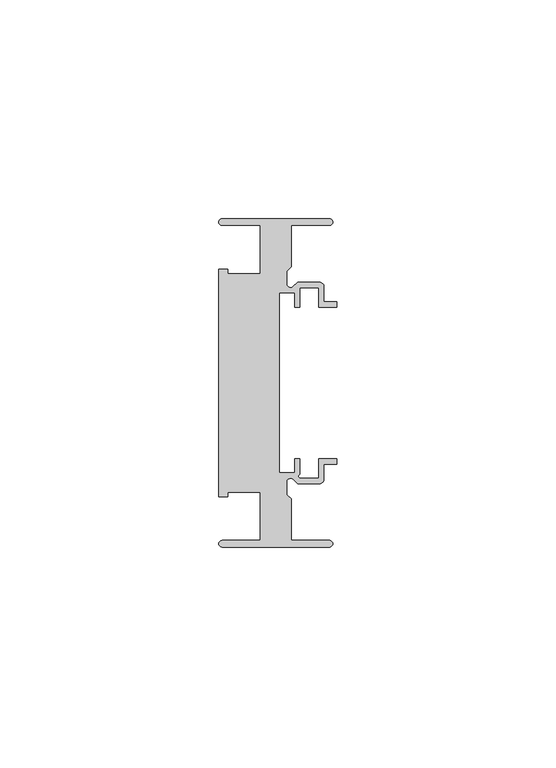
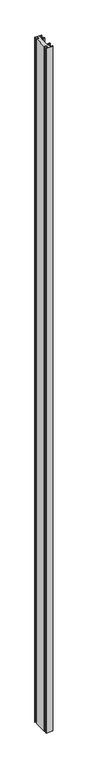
"""IFC4 building model written with IfcOpenShell, lengths in millimetres: member geometry, Прямоугольный импост : 7-AMG-2-Профиль 26Х75 Верх П."""

from ifc_helpers import new_model, si_unit, point, frame, frame_2d, origin, place, context, project, spatial, polyline, circle_curve, trimmed, segment, composite_curve, outline, extrude, source, transform, mapped, element, save


def member_5ca82919(model_context):
    return source(origin(), model_context, "Body", "SweptSolid", [
        extrude(outline(composite_curve([segment(trimmed(circle_curve(frame_2d((-1.7, 36.75)), 0.75), [point((-1.7, 37.5))], [point((-1.7, 36.0))], False, "CARTESIAN"), True, "CONTINUOUS"), segment(polyline([(-1.7, 36.0), (-10.5, 36.0), (-10.5, 26.5029437), (-11.5, 25.5029437), (-11.5, 22.6727922)]), True, "CONTINUOUS"), segment(trimmed(circle_curve(frame_2d((-10.6, 22.6727922)), 0.9), [point((-11.5, 22.6727922))], [point((-9.9636039, 22.0363961))], True, "CARTESIAN"), True, "CONTINUOUS"), segment(polyline([(-9.9636039, 22.0363961), (-9.0, 23.0), (-4.0, 23.0)]), True, "CONTINUOUS"), segment(trimmed(circle_curve(frame_2d((-4.0, 22.0)), 1.0), [point((-4.0, 23.0))], [point((-3.0, 22.0))], False, "CARTESIAN"), True, "CONTINUOUS"), segment(polyline([(-3.0, 22.0), (-3.0, 18.55), (0.0, 18.55), (0.0, 17.35), (-4.2, 17.35), (-4.2, 21.8), (-8.45, 21.8), (-8.45, 17.35), (-9.65, 17.35), (-9.65, 20.55), (-13.15, 20.55), (-13.15, -20.55), (-9.65, -20.55), (-9.65, -17.35), (-8.45, -17.35), (-8.45, -20.8470563)]), True, "CONTINUOUS"), segment(trimmed(circle_curve(frame_2d((-8.3343131, -21.3314262)), 0.4979937), [point((-8.45, -20.8470563))], [point((-8.5029437, -21.8))], True, "CARTESIAN"), True, "CONTINUOUS"), segment(polyline([(-8.5029437, -21.8), (-4.2, -21.8), (-4.2, -17.35), (0.0, -17.35), (0.0, -18.55), (-3.0, -18.55), (-3.0, -22.0)]), True, "CONTINUOUS"), segment(trimmed(circle_curve(frame_2d((-4.0, -22.0)), 1.0), [point((-3.0, -22.0))], [point((-4.0, -23.0))], False, "CARTESIAN"), True, "CONTINUOUS"), segment(polyline([(-4.0, -23.0), (-9.0, -23.0), (-9.9636039, -22.0363961)]), True, "CONTINUOUS"), segment(trimmed(circle_curve(frame_2d((-10.6, -22.6727922)), 0.9), [point((-9.9636039, -22.0363961))], [point((-11.5, -22.6727922))], True, "CARTESIAN"), True, "CONTINUOUS"), segment(polyline([(-11.5, -22.6727922), (-11.5, -25.5029437), (-10.5, -26.5029437), (-10.5, -36.0), (-1.7, -36.0)]), True, "CONTINUOUS"), segment(trimmed(circle_curve(frame_2d((-1.7, -36.75)), 0.75), [point((-1.7, -36.0))], [point((-1.7, -37.5))], False, "CARTESIAN"), True, "CONTINUOUS"), segment(polyline([(-1.7, -37.5), (-26.25, -37.5)]), True, "CONTINUOUS"), segment(trimmed(circle_curve(frame_2d((-26.25, -36.75)), 0.75), [point((-26.25, -37.5))], [point((-26.25, -36.0))], False, "CARTESIAN"), True, "CONTINUOUS"), segment(polyline([(-26.25, -36.0), (-17.5, -36.0), (-17.5, -25.0), (-24.9359877, -25.0), (-24.9359877, -26.0), (-27.0, -26.0), (-27.0, 26.0), (-24.9359877, 26.0), (-24.9359877, 25.0), (-17.5, 25.0), (-17.5, 36.0), (-26.25, 36.0)]), True, "CONTINUOUS"), segment(trimmed(circle_curve(frame_2d((-26.25, 36.75)), 0.75), [point((-26.25, 36.0))], [point((-26.25, 37.5))], False, "CARTESIAN"), True, "CONTINUOUS"), segment(polyline([(-26.25, 37.5), (-1.7, 37.5)]), True, "CONTINUOUS")], self_intersect=False)), frame((0.0, 0.0, -2800.0), z_axis=(0.0, 0.0, 1.0), x_axis=(1.0, 0.0, 0.0)), (0.0, 0.0, 1.0), 2800.0),
    ])


if __name__ == "__main__":
    model = new_model("IFC4")
    model_context = context("Model", 3, world=origin())
    ifc_project = project(units=[si_unit("LENGTHUNIT", "METRE", prefix="MILLI")], contexts=[model_context])
    site = spatial("IfcSite", under=ifc_project)
    building = spatial("IfcBuilding", under=site)
    placement = place(None, origin())
    member_shape = member_5ca82919(model_context)
    element("IfcMember", 1, ObjectType="Прямоугольный импост : 7-AMG-2-Профиль 26Х75 Верх П", at=placement, inside=building, context=model_context, shape_type="MappedRepresentation", body=[
        mapped(member_shape, transform((0.0, 0.0, 0.0), x_axis=(1.0, 0.0, 0.0), y_axis=(0.0, 1.0, 0.0), z_axis=(0.0, 0.0, 1.0))),
    ])
    save(model, "model.ifc")
